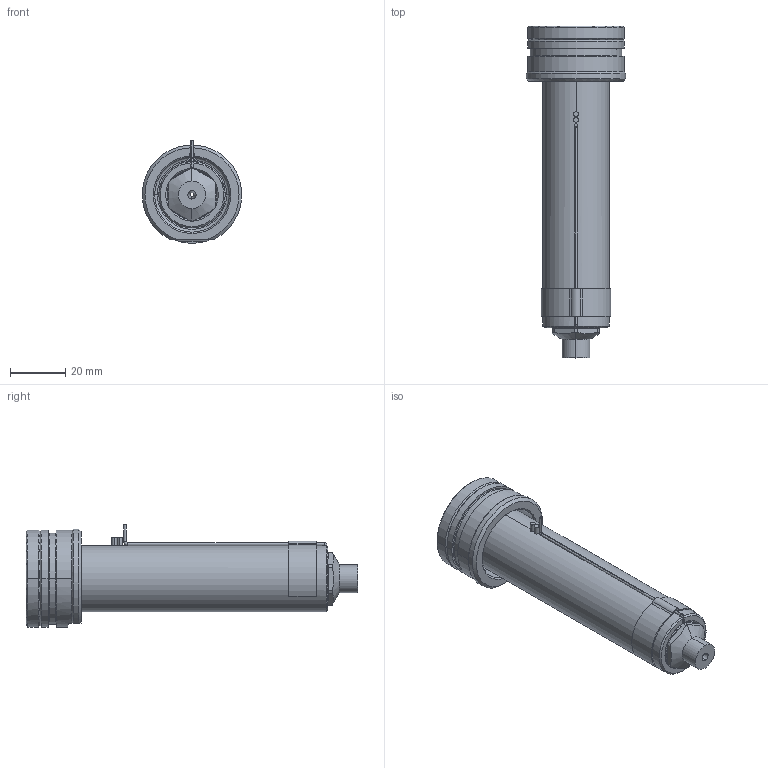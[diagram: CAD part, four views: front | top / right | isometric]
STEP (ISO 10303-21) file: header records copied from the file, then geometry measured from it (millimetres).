
FILE_DESCRIPTION((''),'2;1');
FILE_NAME('EO06_VG-ST_STD_100_SW','2024-02-19T12:38:22',('sundharh'),(''),'CREO PARAMETRIC BY PTC INC, 2023154','CREO PARAMETRIC BY PTC INC, 2023154','');
FILE_SCHEMA(('CONFIG_CONTROL_DESIGN'));
Length unit declared in the file: millimetre
Products named in the file (1): EO06_VG-ST_STD_100_SW
Bounding box: 35.93 x 120 x 37 mm (x, y, z)
Volume: 56009.8 mm3; surface area: 16369.8 mm2
Topology: 2 solids, 2 shells, 175 faces, 448 edges, 272 vertices
Faces by surface type: cylinder 68, plane 40, cone 34, torus 21, bspline 10, sphere 2
Entity records: 6090 total; most frequent: CARTESIAN_POINT 1797, DIRECTION 946, ORIENTED_EDGE 880, EDGE_CURVE 440, AXIS2_PLACEMENT_3D 395, VERTEX_POINT 272, CIRCLE 230, EDGE_LOOP 188
